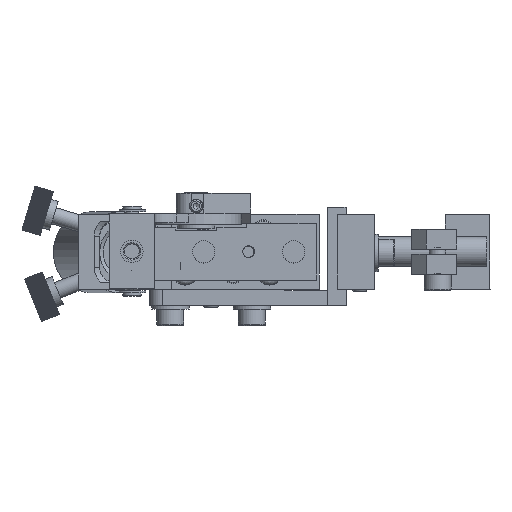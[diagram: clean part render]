
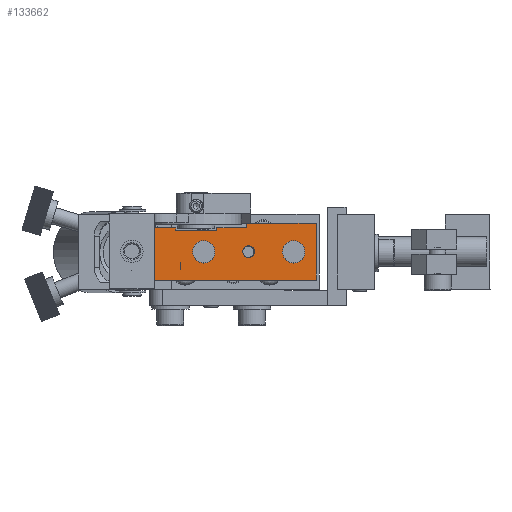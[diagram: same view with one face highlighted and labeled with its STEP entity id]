
A CAD part, front view. The second image highlights one B-rep face of the part: STEP entity #133662.
In plain terms, the highlighted planar face has unit normal (0, -1, 0).
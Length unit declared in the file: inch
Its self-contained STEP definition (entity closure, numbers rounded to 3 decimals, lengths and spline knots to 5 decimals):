
#130309=CARTESIAN_POINT('',(1.16967,-3.70664,-0.313));
#130310=VERTEX_POINT('',#130309);
#130311=CARTESIAN_POINT('',(1.07592,-3.70664,-0.313));
#130312=DIRECTION('',(0.0,1.0,0.0));
#130313=DIRECTION('',(-1.0,0.0,0.0));
#130314=AXIS2_PLACEMENT_3D('',#130311,#130312,#130313);
#130315=CIRCLE('',#130314,0.09375);
#130316=EDGE_CURVE('',#130310,#130310,#130315,.T.);
#130329=CARTESIAN_POINT('',(0.41967,-3.70664,-0.313));
#130330=VERTEX_POINT('',#130329);
#130331=CARTESIAN_POINT('',(0.32592,-3.70664,-0.313));
#130332=DIRECTION('',(0.0,1.0,0.0));
#130333=DIRECTION('',(-1.0,0.0,0.0));
#130334=AXIS2_PLACEMENT_3D('',#130331,#130332,#130333);
#130335=CIRCLE('',#130334,0.09375);
#130336=EDGE_CURVE('',#130330,#130330,#130335,.T.);
#130385=CARTESIAN_POINT('',(1.26292,-3.70664,-0.549));
#130386=VERTEX_POINT('',#130385);
#130387=CARTESIAN_POINT('',(1.26292,-3.70664,-0.076));
#130388=VERTEX_POINT('',#130387);
#130389=CARTESIAN_POINT('',(1.26292,-3.70664,-0.549));
#130390=DIRECTION('',(0.0,0.0,1.0));
#130391=VECTOR('',#130390,0.473);
#130392=LINE('',#130389,#130391);
#130393=EDGE_CURVE('',#130386,#130388,#130392,.T.);
#130964=CARTESIAN_POINT('',(0.68492,-3.70664,-0.076));
#130965=VERTEX_POINT('',#130964);
#130972=CARTESIAN_POINT('',(1.26292,-3.70664,-0.076));
#130973=DIRECTION('',(-1.0,0.0,0.0));
#130974=VECTOR('',#130973,0.578);
#130975=LINE('',#130972,#130974);
#130976=EDGE_CURVE('',#130388,#130965,#130975,.T.);
#131003=CARTESIAN_POINT('',(0.09165,-3.70664,-0.113));
#131004=VERTEX_POINT('',#131003);
#131011=CARTESIAN_POINT('',(0.09165,-3.70664,-0.138));
#131012=VERTEX_POINT('',#131011);
#131013=CARTESIAN_POINT('',(0.09165,-3.70664,-0.138));
#131014=DIRECTION('',(0.0,0.0,1.0));
#131015=VECTOR('',#131014,0.025);
#131016=LINE('',#131013,#131015);
#131017=EDGE_CURVE('',#131012,#131004,#131016,.T.);
#131041=CARTESIAN_POINT('',(0.68492,-3.70664,-0.11286));
#131042=VERTEX_POINT('',#131041);
#131049=CARTESIAN_POINT('',(0.68492,-3.70664,-0.076));
#131050=DIRECTION('',(0.0,0.0,-1.0));
#131051=VECTOR('',#131050,0.03686);
#131052=LINE('',#131049,#131051);
#131053=EDGE_CURVE('',#130965,#131042,#131052,.T.);
#131072=CARTESIAN_POINT('',(0.43465,-3.70664,-0.11286));
#131073=VERTEX_POINT('',#131072);
#131080=CARTESIAN_POINT('',(0.68492,-3.70664,-0.11286));
#131081=DIRECTION('',(-1.0,0.0,0.0));
#131082=VECTOR('',#131081,0.25026);
#131083=LINE('',#131080,#131082);
#131084=EDGE_CURVE('',#131042,#131073,#131083,.T.);
#131103=CARTESIAN_POINT('',(0.43465,-3.70664,-0.138));
#131104=VERTEX_POINT('',#131103);
#131111=CARTESIAN_POINT('',(0.43465,-3.70664,-0.11286));
#131112=DIRECTION('',(0.0,0.0,-1.0));
#131113=VECTOR('',#131112,0.02514);
#131114=LINE('',#131111,#131113);
#131115=EDGE_CURVE('',#131073,#131104,#131114,.T.);
#131133=CARTESIAN_POINT('',(0.43465,-3.70664,-0.138));
#131134=DIRECTION('',(-1.0,0.0,0.0));
#131135=VECTOR('',#131134,0.343);
#131136=LINE('',#131133,#131135);
#131137=EDGE_CURVE('',#131104,#131012,#131136,.T.);
#131375=CARTESIAN_POINT('',(0.65192,-3.70664,-0.313));
#131376=VERTEX_POINT('',#131375);
#131377=CARTESIAN_POINT('',(0.70092,-3.70664,-0.313));
#131378=DIRECTION('',(0.0,1.0,0.0));
#131379=DIRECTION('',(-1.0,0.0,0.0));
#131380=AXIS2_PLACEMENT_3D('',#131377,#131378,#131379);
#131381=CIRCLE('',#131380,0.049);
#131382=EDGE_CURVE('',#131376,#131376,#131381,.T.);
#133591=CARTESIAN_POINT('',(-0.0861,-3.70664,-0.549));
#133592=VERTEX_POINT('',#133591);
#133609=CARTESIAN_POINT('',(-0.0861,-3.70664,-0.549));
#133610=DIRECTION('',(1.0,0.0,0.0));
#133611=VECTOR('',#133610,1.34901);
#133612=LINE('',#133609,#133611);
#133613=EDGE_CURVE('',#133592,#130386,#133612,.T.);
#133624=CARTESIAN_POINT('',(1.26292,-3.70664,-0.549));
#133625=DIRECTION('',(0.0,-1.0,0.0));
#133626=DIRECTION('',(0.0,0.0,-1.0));
#133627=AXIS2_PLACEMENT_3D('',#133624,#133625,#133626);
#133628=PLANE('',#133627);
#133629=CARTESIAN_POINT('',(-0.0861,-3.70664,-0.113));
#133630=VERTEX_POINT('',#133629);
#133631=CARTESIAN_POINT('',(-0.0861,-3.70664,-0.113));
#133632=DIRECTION('',(0.0,0.0,-1.0));
#133633=VECTOR('',#133632,0.436);
#133634=LINE('',#133631,#133633);
#133635=EDGE_CURVE('',#133630,#133592,#133634,.T.);
#133636=ORIENTED_EDGE('',*,*,#133635,.T.);
#133637=ORIENTED_EDGE('',*,*,#133613,.T.);
#133638=ORIENTED_EDGE('',*,*,#130393,.T.);
#133639=ORIENTED_EDGE('',*,*,#130976,.T.);
#133640=ORIENTED_EDGE('',*,*,#131053,.T.);
#133641=ORIENTED_EDGE('',*,*,#131084,.T.);
#133642=ORIENTED_EDGE('',*,*,#131115,.T.);
#133643=ORIENTED_EDGE('',*,*,#131137,.T.);
#133644=ORIENTED_EDGE('',*,*,#131017,.T.);
#133645=CARTESIAN_POINT('',(0.09165,-3.70664,-0.113));
#133646=DIRECTION('',(-1.0,0.0,0.0));
#133647=VECTOR('',#133646,0.17775);
#133648=LINE('',#133645,#133647);
#133649=EDGE_CURVE('',#131004,#133630,#133648,.T.);
#133650=ORIENTED_EDGE('',*,*,#133649,.T.);
#133651=EDGE_LOOP('',(#133636,#133637,#133638,#133639,#133640,#133641,#133642,#133643,#133644,#133650));
#133652=FACE_OUTER_BOUND('',#133651,.T.);
#133653=ORIENTED_EDGE('',*,*,#131382,.T.);
#133654=EDGE_LOOP('',(#133653));
#133655=FACE_BOUND('',#133654,.T.);
#133656=ORIENTED_EDGE('',*,*,#130316,.T.);
#133657=EDGE_LOOP('',(#133656));
#133658=FACE_BOUND('',#133657,.T.);
#133659=ORIENTED_EDGE('',*,*,#130336,.T.);
#133660=EDGE_LOOP('',(#133659));
#133661=FACE_BOUND('',#133660,.T.);
#133662=ADVANCED_FACE('',(#133652,#133655,#133658,#133661),#133628,.T.);
